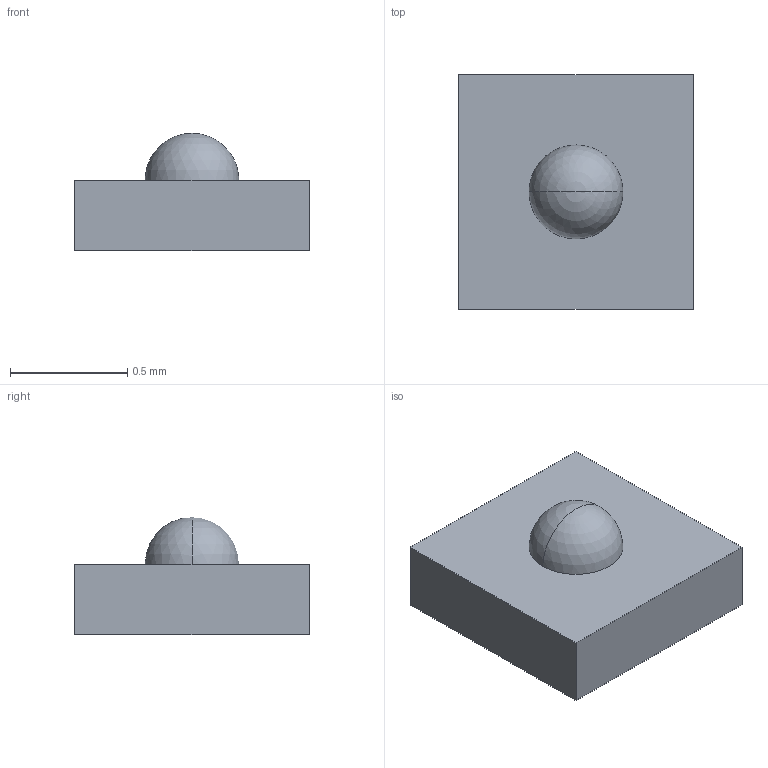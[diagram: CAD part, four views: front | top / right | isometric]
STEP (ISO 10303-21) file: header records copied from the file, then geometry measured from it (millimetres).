
FILE_DESCRIPTION((''),'2;1');
FILE_NAME('SPHERICAL_PRT','2008-06-30T',('GRA'),(''),'PRO/ENGINEER BY PARAMETRIC TECHNOLOGY CORPORATION, 2006170','PRO/ENGINEER BY PARAMETRIC TECHNOLOGY CORPORATION, 2006170','');
FILE_SCHEMA(('CONFIG_CONTROL_DESIGN'));
Length unit declared in the file: millimetre
Products named in the file (1): SPHERICAL_PRT
Bounding box: 1 x 1 x 0.5 mm (x, y, z)
Volume: 0.3 mm3; surface area: 3.3 mm2
Topology: 1 solids, 1 shells, 8 faces, 18 edges, 11 vertices
Faces by surface type: plane 6, sphere 2
Entity records: 250 total; most frequent: DIRECTION 36, CARTESIAN_POINT 35, ORIENTED_EDGE 32, EDGE_CURVE 16, VECTOR 12, LINE 12, AXIS2_PLACEMENT_3D 12, VERTEX_POINT 11
